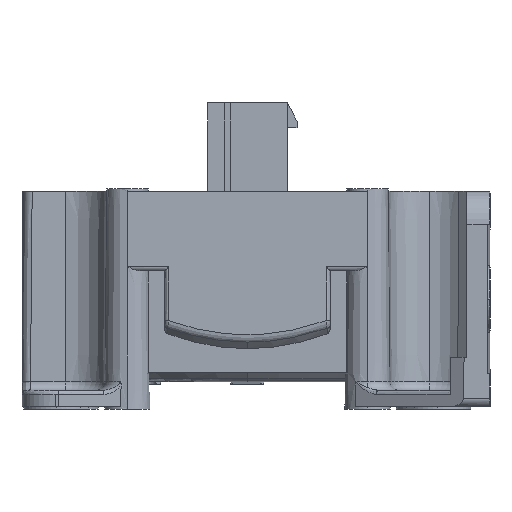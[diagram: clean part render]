
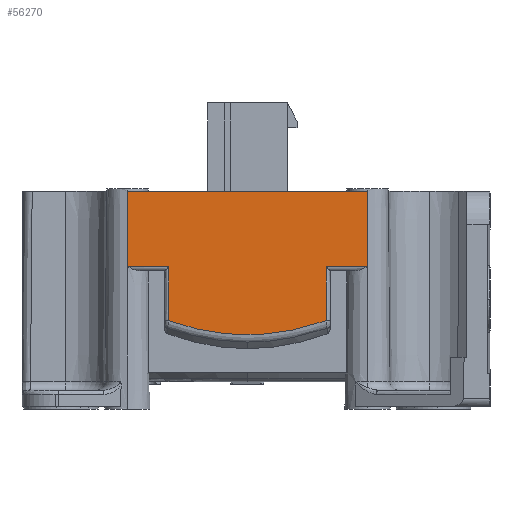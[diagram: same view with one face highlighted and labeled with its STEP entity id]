
A CAD part, left-side view. The second image highlights one B-rep face of the part: STEP entity #56270.
In plain terms, the highlighted planar face has unit normal (-1, 0, 0.009).
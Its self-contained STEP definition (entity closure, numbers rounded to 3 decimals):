
#52290=CARTESIAN_POINT('',(-26.178,-14.5,7.109));
#52300=DIRECTION('',(-0.009,0.,-1.));
#52310=VECTOR('',#52300,295.474);
#52320=LINE('',#52290,#52310);
#52330=CARTESIAN_POINT('',(-26.179,-14.5,7.004));
#52340=VERTEX_POINT('',#52330);
#52370=CARTESIAN_POINT('',(-26.1,-14.5,16.1));
#52380=VERTEX_POINT('',#52370);
#52390=EDGE_CURVE('',#52380,#52340,#52320,.T.);
#54170=CARTESIAN_POINT('',(-26.236,-9.5,0.486));
#54180=VERTEX_POINT('',#54170);
#54210=CARTESIAN_POINT('',(-26.179,-9.5,7.004));
#54220=DIRECTION('',(-0.009,0.,-1.));
#54230=VECTOR('',#54220,1.);
#54240=LINE('',#54210,#54230);
#54250=CARTESIAN_POINT('',(-26.179,-9.5,7.004));
#54260=VERTEX_POINT('',#54250);
#54270=EDGE_CURVE('',#54260,#54180,#54240,.T.);
#55110=CARTESIAN_POINT('',(-26.179,-9.5,7.004));
#55120=DIRECTION('',(0.,-1.,0.));
#55130=VECTOR('',#55120,1.);
#55140=LINE('',#55110,#55130);
#55150=EDGE_CURVE('',#54260,#52340,#55140,.T.);
#55260=CARTESIAN_POINT('',(-26.1,-14.5,16.1));
#55270=DIRECTION('',(-1.,0.,0.009));
#55280=DIRECTION('',(0.009,0.,1.));
#55290=AXIS2_PLACEMENT_3D('',#55260,#55270,#55280);
#55300=PLANE('',#55290);
#55310=ORIENTED_EDGE('',*,*,#54270,.F.);
#55320=CARTESIAN_POINT('',(-26.236,-9.5,0.486));
#55330=CARTESIAN_POINT('',(-26.236,-9.437,0.463)
);
#55340=CARTESIAN_POINT('',(-26.237,-9.373,0.441)
);
#55350=CARTESIAN_POINT('',(-26.237,-9.31,0.419)
);
#55360=CARTESIAN_POINT('',(-26.237,-9.243,0.396)
);
#55370=CARTESIAN_POINT('',(-26.237,-9.176,0.373)
);
#55380=CARTESIAN_POINT('',(-26.239,-8.62,0.185)
);
#55390=CARTESIAN_POINT('',(-26.24,-8.126,0.029
));
#55400=CARTESIAN_POINT('',(-26.242,-7.382,-0.186
));
#55410=CARTESIAN_POINT('',(-26.243,-7.133,-0.255
));
#55420=CARTESIAN_POINT('',(-26.244,-6.633,-0.386
));
#55430=CARTESIAN_POINT('',(-26.244,-6.382,-0.449))
;
#55440=CARTESIAN_POINT('',(-26.245,-5.879,-0.567
));
#55450=CARTESIAN_POINT('',(-26.246,-5.628,-0.623
));
#55460=CARTESIAN_POINT('',(-26.247,-5.123,-0.728))
;
#55470=CARTESIAN_POINT('',(-26.247,-4.87,-0.777)
);
#55480=CARTESIAN_POINT('',(-26.248,-4.362,-0.869
));
#55490=CARTESIAN_POINT('',(-26.248,-4.108,-0.911
));
#55500=CARTESIAN_POINT('',(-26.249,-3.598,-0.987
));
#55510=CARTESIAN_POINT('',(-26.249,-3.343,-1.022)
);
#55520=CARTESIAN_POINT('',(-26.25,-2.831,-1.084))
;
#55530=CARTESIAN_POINT('',(-26.25,-2.574,-1.112)
);
#55540=CARTESIAN_POINT('',(-26.251,-2.061,-1.158)
);
#55550=CARTESIAN_POINT('',(-26.251,-1.804,-1.178)
);
#55560=CARTESIAN_POINT('',(-26.251,-1.29,-1.21)
);
#55570=CARTESIAN_POINT('',(-26.251,-1.032,-1.221)
);
#55580=CARTESIAN_POINT('',(-26.251,-0.517,-1.237)
);
#55590=CARTESIAN_POINT('',(-26.251,-0.259,-1.241
));
#55600=CARTESIAN_POINT('',(-26.251,0.256,-1.241)
);
#55610=CARTESIAN_POINT('',(-26.251,0.514,-1.237)
);
#55620=CARTESIAN_POINT('',(-26.251,1.029,-1.221))
;
#55630=CARTESIAN_POINT('',(-26.251,1.287,-1.21))
;
#55640=CARTESIAN_POINT('',(-26.251,1.801,-1.178));
#55650=CARTESIAN_POINT('',(-26.251,2.058,-1.159));
#55660=CARTESIAN_POINT('',(-26.25,2.572,-1.112));
#55670=CARTESIAN_POINT('',(-26.25,2.828,-1.085))
;
#55680=CARTESIAN_POINT('',(-26.249,3.34,-1.023))
;
#55690=CARTESIAN_POINT('',(-26.249,3.595,-0.988))
;
#55700=CARTESIAN_POINT('',(-26.248,4.105,-0.911)
);
#55710=CARTESIAN_POINT('',(-26.248,4.359,-0.869)
);
#55720=CARTESIAN_POINT('',(-26.247,4.867,-0.778)
);
#55730=CARTESIAN_POINT('',(-26.247,5.12,-0.729)
);
#55740=CARTESIAN_POINT('',(-26.246,5.625,-0.624)
);
#55750=CARTESIAN_POINT('',(-26.245,5.876,-0.568)
);
#55760=CARTESIAN_POINT('',(-26.244,6.379,-0.45)
);
#55770=CARTESIAN_POINT('',(-26.244,6.63,-0.387)
);
#55780=CARTESIAN_POINT('',(-26.243,7.13,-0.256))
;
#55790=CARTESIAN_POINT('',(-26.242,7.379,-0.187)
);
#55800=CARTESIAN_POINT('',(-26.24,8.124,0.028)
);
#55810=CARTESIAN_POINT('',(-26.239,8.617,0.184));
#55820=CARTESIAN_POINT('',(-26.237,9.174,0.373))
;
#55830=CARTESIAN_POINT('',(-26.237,9.242,0.396))
;
#55840=CARTESIAN_POINT('',(-26.237,9.31,0.419))
;
#55850=CARTESIAN_POINT('',(-26.237,9.373,0.441));
#55860=CARTESIAN_POINT('',(-26.236,9.437,0.463))
;
#55870=CARTESIAN_POINT('',(-26.236,9.5,0.486));
#55880=B_SPLINE_CURVE_WITH_KNOTS('',3,(#55320,#55330,#55340,#55350,
#55360,#55370,#55380,#55390,#55400,#55410,#55420,#55430,#55440,#55450,
#55460,#55470,#55480,#55490,#55500,#55510,#55520,#55530,#55540,#55550,
#55560,#55570,#55580,#55590,#55600,#55610,#55620,#55630,#55640,#55650,
#55660,#55670,#55680,#55690,#55700,#55710,#55720,#55730,#55740,#55750,
#55760,#55770,#55780,#55790,#55800,#55810,#55820,#55830,#55840,#55850,
#55860,#55870),.UNSPECIFIED.,.F.,.F.,(4,3,2,2,2,2,2,2,2,2,2,2,2,2,2,2,2,
2,2,2,2,2,2,2,2,3,4),(51.807,51.918,52.133,
53.704,54.491,55.277,56.062,56.847,
57.633,58.419,59.205,59.991,60.777,
61.563,62.349,63.135,63.921,64.707,
65.493,66.278,67.064,67.849,68.635,
69.421,70.993,71.21,71.321),.UNSPECIFIED.);
#55890=CARTESIAN_POINT('',(-26.236,9.5,0.486));
#55900=VERTEX_POINT('',#55890);
#55910=EDGE_CURVE('',#54180,#55900,#55880,.T.);
#55920=ORIENTED_EDGE('',*,*,#55910,.F.);
#55930=CARTESIAN_POINT('',(-26.179,9.5,7.004));
#55940=DIRECTION('',(-0.009,0.,-1.));
#55950=VECTOR('',#55940,1.);
#55960=LINE('',#55930,#55950);
#55970=CARTESIAN_POINT('',(-26.179,9.5,7.004));
#55980=VERTEX_POINT('',#55970);
#55990=EDGE_CURVE('',#55980,#55900,#55960,.T.);
#56000=ORIENTED_EDGE('',*,*,#55990,.T.);
#56010=CARTESIAN_POINT('',(-26.179,14.5,7.004));
#56020=DIRECTION('',(0.,-1.,0.));
#56030=VECTOR('',#56020,1.);
#56040=LINE('',#56010,#56030);
#56050=CARTESIAN_POINT('',(-26.179,14.5,7.004));
#56060=VERTEX_POINT('',#56050);
#56070=EDGE_CURVE('',#56060,#55980,#56040,.T.);
#56080=ORIENTED_EDGE('',*,*,#56070,.T.);
#56090=CARTESIAN_POINT('',(-26.178,14.5,7.109));
#56100=DIRECTION('',(-0.009,0.,-1.));
#56110=VECTOR('',#56100,295.474);
#56120=LINE('',#56090,#56110);
#56130=CARTESIAN_POINT('',(-26.1,14.5,16.1));
#56140=VERTEX_POINT('',#56130);
#56150=EDGE_CURVE('',#56140,#56060,#56120,.T.);
#56160=ORIENTED_EDGE('',*,*,#56150,.T.);
#56170=CARTESIAN_POINT('',(-26.1,-14.5,16.1));
#56180=DIRECTION('',(0.,1.,0.));
#56190=VECTOR('',#56180,1.);
#56200=LINE('',#56170,#56190);
#56210=EDGE_CURVE('',#52380,#56140,#56200,.T.);
#56220=ORIENTED_EDGE('',*,*,#56210,.T.);
#56230=ORIENTED_EDGE('',*,*,#52390,.F.);
#56240=ORIENTED_EDGE('',*,*,#55150,.T.);
#56250=EDGE_LOOP('',(#56240,#56230,#56220,#56160,#56080,#56000,#55920,
#55310));
#56260=FACE_OUTER_BOUND('',#56250,.T.);
#56270=ADVANCED_FACE('',(#56260),#55300,.T.);
